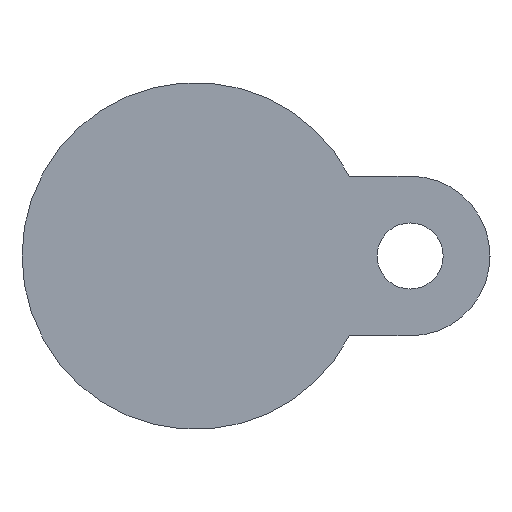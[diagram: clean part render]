
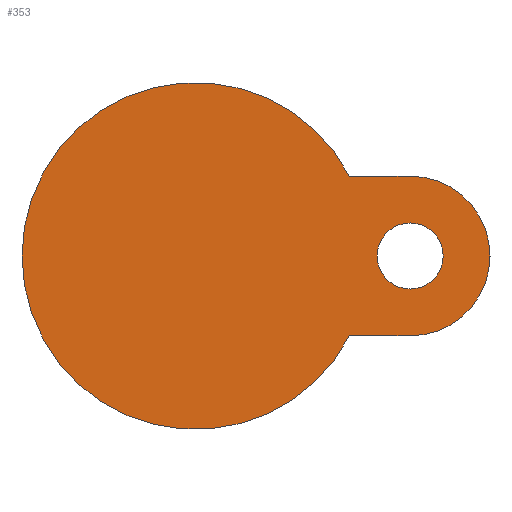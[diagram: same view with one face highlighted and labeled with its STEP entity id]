
A CAD part, front view. The second image highlights one B-rep face of the part: STEP entity #353.
In plain terms, the highlighted planar face has unit normal (0, -1, 0).
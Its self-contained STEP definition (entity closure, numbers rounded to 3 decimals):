
#21 = DIRECTION ( 'NONE',  ( -1., 0., 0. ) ) ;
#173 = CARTESIAN_POINT ( 'NONE',  ( 39., -15., -14.5 ) ) ;
#191 = DIRECTION ( 'NONE',  ( 0., -1., 0. ) ) ;
#236 = CARTESIAN_POINT ( 'NONE',  ( 16.055, -15., 14.5 ) ) ;
#297 = DIRECTION ( 'NONE',  ( 1., 0., 0. ) ) ;
#316 = ORIENTED_EDGE ( 'NONE', *, *, #5265, .T. ) ;
#353 = ADVANCED_FACE ( 'NONE', ( #4852, #5264 ), #1466, .T. ) ;
#426 = DIRECTION ( 'NONE',  ( 1., 0., 0. ) ) ;
#503 = EDGE_CURVE ( 'NONE', #3216, #2531, #5247, .T. ) ;
#509 = CARTESIAN_POINT ( 'NONE',  ( 39., -15., 14.5 ) ) ;
#528 = ORIENTED_EDGE ( 'NONE', *, *, #2513, .T. ) ;
#582 = EDGE_LOOP ( 'NONE', ( #4412, #3911 ) ) ;
#590 = CARTESIAN_POINT ( 'NONE',  ( 27.964, -15., 14.5 ) ) ;
#598 = EDGE_CURVE ( 'NONE', #3216, #4813, #5052, .T. ) ;
#661 = AXIS2_PLACEMENT_3D ( 'NONE', #1840, #3988, #4750 ) ;
#834 = EDGE_CURVE ( 'NONE', #4277, #4755, #4019, .T. ) ;
#866 = EDGE_CURVE ( 'NONE', #4623, #1479, #1533, .T. ) ;
#907 = AXIS2_PLACEMENT_3D ( 'NONE', #3115, #191, #5191 ) ;
#1182 = DIRECTION ( 'NONE',  ( 1., 0., 0. ) ) ;
#1412 = CARTESIAN_POINT ( 'NONE',  ( 33., -15., 0. ) ) ;
#1451 = CIRCLE ( 'NONE', #2418, 6. ) ;
#1466 = PLANE ( 'NONE',  #2671 ) ;
#1479 = VERTEX_POINT ( 'NONE', #509 ) ;
#1533 = CIRCLE ( 'NONE', #661, 14.5 ) ;
#1540 = DIRECTION ( 'NONE',  ( 1., 0., 0. ) ) ;
#1647 = EDGE_CURVE ( 'NONE', #2531, #4741, #5251, .T. ) ;
#1688 = VECTOR ( 'NONE', #1182, 1000. ) ;
#1840 = CARTESIAN_POINT ( 'NONE',  ( 39., -15., 0. ) ) ;
#1856 = DIRECTION ( 'NONE',  ( -1., 0., 0. ) ) ;
#2055 = EDGE_CURVE ( 'NONE', #4755, #4277, #1451, .T. ) ;
#2131 = DIRECTION ( 'NONE',  ( 0., -1., 0. ) ) ;
#2152 = CARTESIAN_POINT ( 'NONE',  ( 53.5, -15., 0. ) ) ;
#2418 = AXIS2_PLACEMENT_3D ( 'NONE', #5037, #2131, #426 ) ;
#2422 = CARTESIAN_POINT ( 'NONE',  ( 39., -15., 0. ) ) ;
#2471 = VECTOR ( 'NONE', #5268, 1000. ) ;
#2513 = EDGE_CURVE ( 'NONE', #1479, #4741, #4931, .T. ) ;
#2519 = CIRCLE ( 'NONE', #2612, 14.5 ) ;
#2531 = VERTEX_POINT ( 'NONE', #3604 ) ;
#2612 = AXIS2_PLACEMENT_3D ( 'NONE', #2422, #3699, #1540 ) ;
#2671 = AXIS2_PLACEMENT_3D ( 'NONE', #3571, #4455, #297 ) ;
#2921 = ORIENTED_EDGE ( 'NONE', *, *, #866, .T. ) ;
#3115 = CARTESIAN_POINT ( 'NONE',  ( 39., -15., 0. ) ) ;
#3120 = AXIS2_PLACEMENT_3D ( 'NONE', #3972, #4359, #1856 ) ;
#3216 = VERTEX_POINT ( 'NONE', #4803 ) ;
#3571 = CARTESIAN_POINT ( 'NONE',  ( 0., -15., 0. ) ) ;
#3604 = CARTESIAN_POINT ( 'NONE',  ( -31.5, -15., 0. ) ) ;
#3699 = DIRECTION ( 'NONE',  ( 0., -1., 0. ) ) ;
#3784 = EDGE_LOOP ( 'NONE', ( #5189, #5025, #316, #2921, #528, #4421 ) ) ;
#3911 = ORIENTED_EDGE ( 'NONE', *, *, #2055, .F. ) ;
#3972 = CARTESIAN_POINT ( 'NONE',  ( 0., -15., 0. ) ) ;
#3988 = DIRECTION ( 'NONE',  ( 0., -1., 0. ) ) ;
#4019 = CIRCLE ( 'NONE', #907, 6. ) ;
#4184 = AXIS2_PLACEMENT_3D ( 'NONE', #5380, #4616, #21 ) ;
#4235 = CARTESIAN_POINT ( 'NONE',  ( 39., -15., -14.5 ) ) ;
#4277 = VERTEX_POINT ( 'NONE', #4969 ) ;
#4359 = DIRECTION ( 'NONE',  ( 0., 1., 0. ) ) ;
#4412 = ORIENTED_EDGE ( 'NONE', *, *, #834, .F. ) ;
#4421 = ORIENTED_EDGE ( 'NONE', *, *, #1647, .F. ) ;
#4455 = DIRECTION ( 'NONE',  ( 0., -1., 0. ) ) ;
#4616 = DIRECTION ( 'NONE',  ( 0., 1., 0. ) ) ;
#4623 = VERTEX_POINT ( 'NONE', #2152 ) ;
#4741 = VERTEX_POINT ( 'NONE', #590 ) ;
#4750 = DIRECTION ( 'NONE',  ( 1., 0., 0. ) ) ;
#4755 = VERTEX_POINT ( 'NONE', #1412 ) ;
#4803 = CARTESIAN_POINT ( 'NONE',  ( 27.964, -15., -14.5 ) ) ;
#4813 = VERTEX_POINT ( 'NONE', #173 ) ;
#4852 = FACE_OUTER_BOUND ( 'NONE', #3784, .T. ) ;
#4931 = LINE ( 'NONE', #236, #2471 ) ;
#4969 = CARTESIAN_POINT ( 'NONE',  ( 45., -15., 0. ) ) ;
#5025 = ORIENTED_EDGE ( 'NONE', *, *, #598, .T. ) ;
#5037 = CARTESIAN_POINT ( 'NONE',  ( 39., -15., 0. ) ) ;
#5052 = LINE ( 'NONE', #4235, #1688 ) ;
#5189 = ORIENTED_EDGE ( 'NONE', *, *, #503, .F. ) ;
#5191 = DIRECTION ( 'NONE',  ( 1., 0., 0. ) ) ;
#5247 = CIRCLE ( 'NONE', #4184, 31.5 ) ;
#5251 = CIRCLE ( 'NONE', #3120, 31.5 ) ;
#5264 = FACE_BOUND ( 'NONE', #582, .T. ) ;
#5265 = EDGE_CURVE ( 'NONE', #4813, #4623, #2519, .T. ) ;
#5268 = DIRECTION ( 'NONE',  ( -1., 0., 0. ) ) ;
#5380 = CARTESIAN_POINT ( 'NONE',  ( 0., -15., 0. ) ) ;
